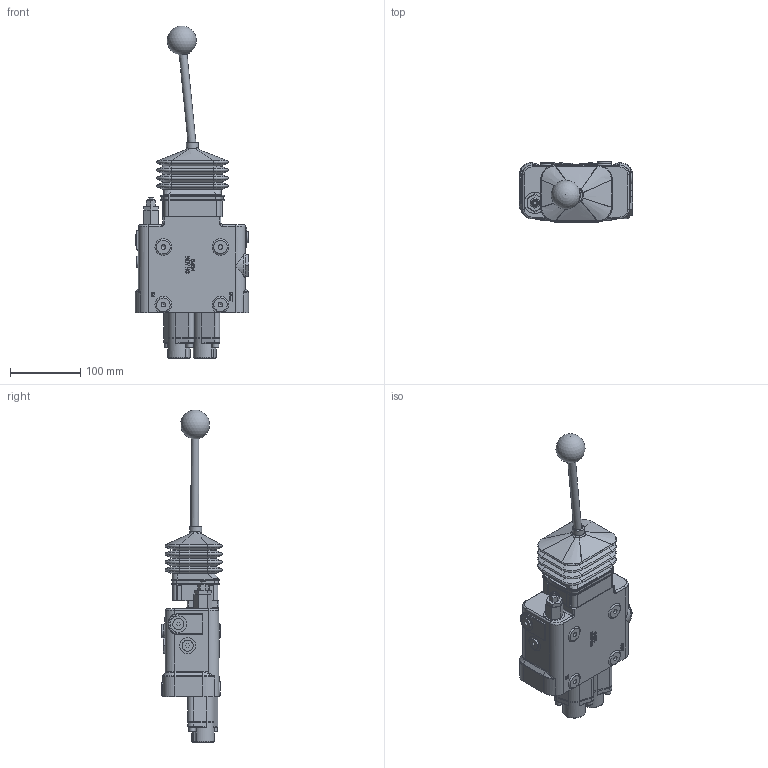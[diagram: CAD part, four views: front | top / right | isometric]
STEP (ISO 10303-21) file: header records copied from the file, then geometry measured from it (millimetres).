
FILE_DESCRIPTION((''),'2;1');
FILE_NAME('C:\Vault\Workspace\z_ShellModels\LV_LS30_RD25_RD41\LVR1GR5AB3_Shell.stp','2012-03-19T10:25:47',('PetersW'),(''),'Autodesk Inventor 2012','Autodesk Inventor 2012','');
FILE_SCHEMA(('AUTOMOTIVE_DESIGN { 1 0 10303 214 1 1 1 1 }'));
Length unit declared in the file: inch
Products named in the file (1): Part3
Bounding box: 161.52 x 85.55 x 471.05 mm (x, y, z)
Volume: 1973292.7 mm3; surface area: 266919.3 mm2
Topology: 1 solids, 27 shells, 1800 faces, 4458 edges, 2811 vertices
Faces by surface type: plane 943, cylinder 333, bspline 217, cone 155, torus 130, sphere 22
Full cylindrical faces by diameter (mm): 3.302 x2, 4.978 x12, 6.096 x1, 6.35 x4, 6.401 x8, 6.528 x1, 6.731 x12, 6.909 x3, 9.525 x4, 10.287 x2, 11.112 x1, 14.884 x4, 15.875 x5, 15.878 x6, 16.764 x2, 17.069 x1, 17.45 x2, 17.463 x1, 17.551 x4, 19.05 x3, 20.32 x4, 20.472 x2, 21.438 x2, 23.012 x1, 23.266 x2, 23.952 x1, 27.28 x4, 30.175 x7, 34.138 x2, 41.275 x1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
Entity records: 65994 total; most frequent: CARTESIAN_POINT 24253, ORIENTED_EDGE 8290, DIRECTION 7778, EDGE_CURVE 4145, VERTEX_POINT 2715, AXIS2_PLACEMENT_3D 2707, VECTOR 2364, LINE 2364
